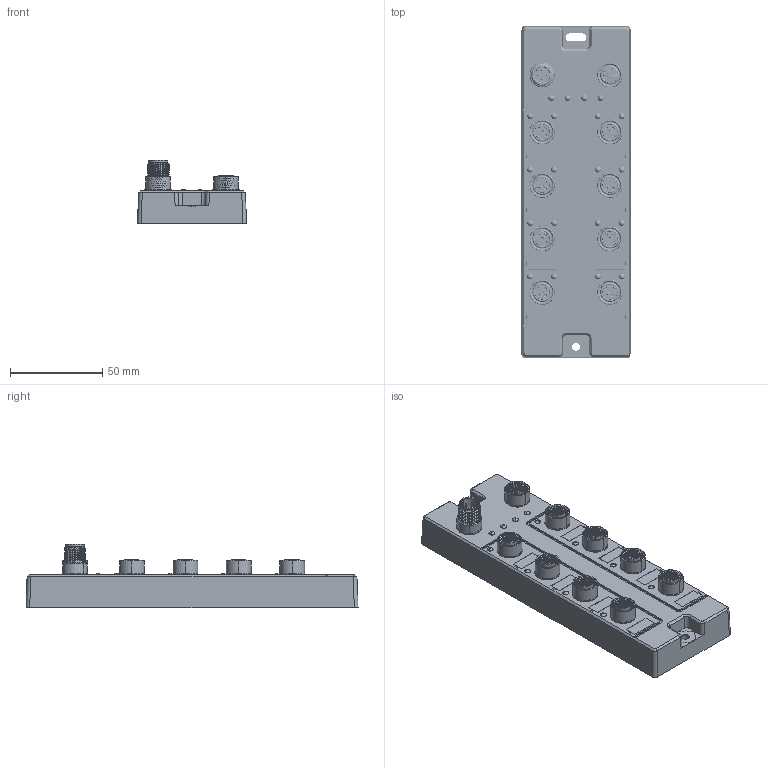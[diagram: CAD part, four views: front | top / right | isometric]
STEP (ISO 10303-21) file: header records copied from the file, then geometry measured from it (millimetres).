
FILE_DESCRIPTION((''),'2;1');
FILE_NAME('_ALL000_ASM_298_ASM_101_ASM_117_ASM','2024-12-27T10:28:40',('Administrator'),('yulong DESIGN'),'CREO PARAMETRIC BY PTC INC, 2021023','CREO PARAMETRIC BY PTC INC, 2021023','');
FILE_SCHEMA(('AUTOMOTIVE_DESIGN { 1 0 10303 214 1 1 1 1 }'));
Products named in the file (10): A000_1052_179_276; G1000106__1_1_1_A_165_101_119; 000_141_101_117; 000_137_103_117; 7_5X1_5-1-SOLID1000_102_117; _90001_33_117; M12A5-0001_ASM_33_ASM_117_ASM; M12A04C-MPBRCU-0040001_116; M12LE4C-MPBRCU-0020001_ASM_5; _ALL000_ASM_298_ASM_101_ASM_117_ASM
Assembly tree (42 placements, depth 3):
  _ALL000_ASM_298_ASM_101_ASM_117_ASM
    A000_1052_179_276
    G1000106__1_1_1_A_165_101_119
    000_141_101_117  x8
    000_137_103_117  x20
    M12A5-0001_ASM_33_ASM_117_ASM  x8
      7_5X1_5-1-SOLID1000_102_117
      _90001_33_117
    M12A04C-MPBRCU-0040001_116
    M12LE4C-MPBRCU-0020001_ASM_5
Bounding box: 59.16 x 180.16 x 34.7 mm (x, y, z)
Volume: 197234.3 mm3; surface area: 57755.4 mm2
Topology: 47 solids, 50 shells, 3292 faces, 8112 edges, 5242 vertices
Faces by surface type: plane 1305, cylinder 1124, cone 276, extrusion 211, bspline 180, torus 138, sphere 58
Entity records: 63091 total; most frequent: CARTESIAN_POINT 25043, DIRECTION 5887, ORIENTED_EDGE 5804, EDGE_CURVE 2902, AXIS2_PLACEMENT_3D 2189, VERTEX_POINT 1900, PRESENTATION_STYLE_ASSIGNMENT 1667, VECTOR 1509
